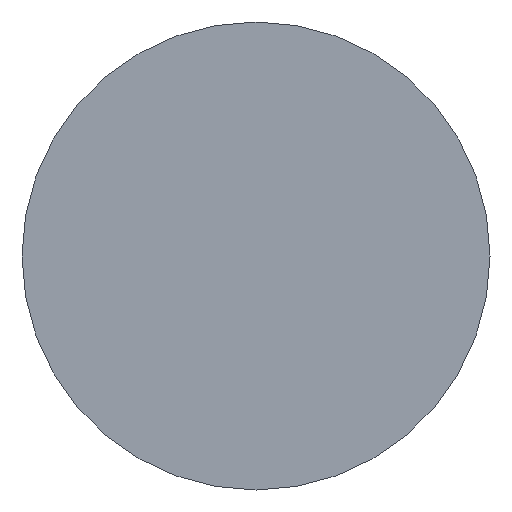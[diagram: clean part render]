
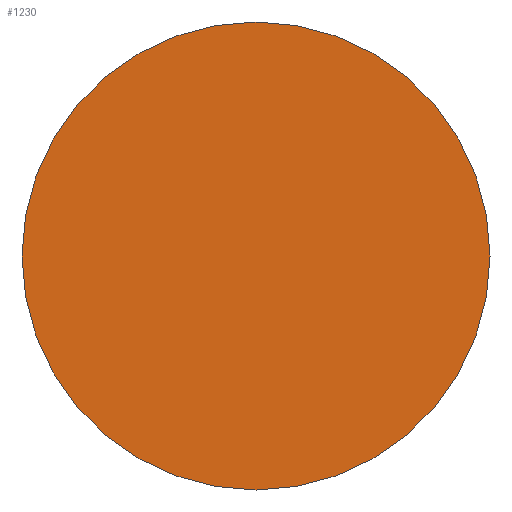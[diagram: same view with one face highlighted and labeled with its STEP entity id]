
A CAD part, front view. The second image highlights one B-rep face of the part: STEP entity #1230.
In plain terms, the highlighted planar face has unit normal (0, -1, 0).
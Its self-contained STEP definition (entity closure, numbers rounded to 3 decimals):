
#1183=CARTESIAN_POINT('',(-4.246,64.054,-19.999));
#1184=VERTEX_POINT('',#1183);
#1191=CARTESIAN_POINT('',(-4.246,64.054,19.999));
#1192=VERTEX_POINT('',#1191);
#1193=CARTESIAN_POINT('',(-4.246,64.054,0.0));
#1194=DIRECTION('',(0.0,-1.0,0.0));
#1195=DIRECTION('',(0.0,0.0,-1.0));
#1196=AXIS2_PLACEMENT_3D('',#1193,#1194,#1195);
#1197=CIRCLE('',#1196,19.999);
#1198=EDGE_CURVE('',#1192,#1184,#1197,.T.);
#1200=CARTESIAN_POINT('',(-4.246,64.054,0.0));
#1201=DIRECTION('',(0.0,-1.0,0.0));
#1202=DIRECTION('',(0.0,0.0,-1.0));
#1203=AXIS2_PLACEMENT_3D('',#1200,#1201,#1202);
#1204=CIRCLE('',#1203,19.999);
#1205=EDGE_CURVE('',#1184,#1192,#1204,.T.);
#1221=CARTESIAN_POINT('',(-28.245,64.054,23.998));
#1222=DIRECTION('',(0.0,-1.0,0.0));
#1223=DIRECTION('',(0.0,0.0,-1.0));
#1224=AXIS2_PLACEMENT_3D('',#1221,#1222,#1223);
#1225=PLANE('',#1224);
#1226=ORIENTED_EDGE('',*,*,#1205,.T.);
#1227=ORIENTED_EDGE('',*,*,#1198,.T.);
#1228=EDGE_LOOP('',(#1226,#1227));
#1229=FACE_OUTER_BOUND('',#1228,.T.);
#1230=ADVANCED_FACE('',(#1229),#1225,.T.);
